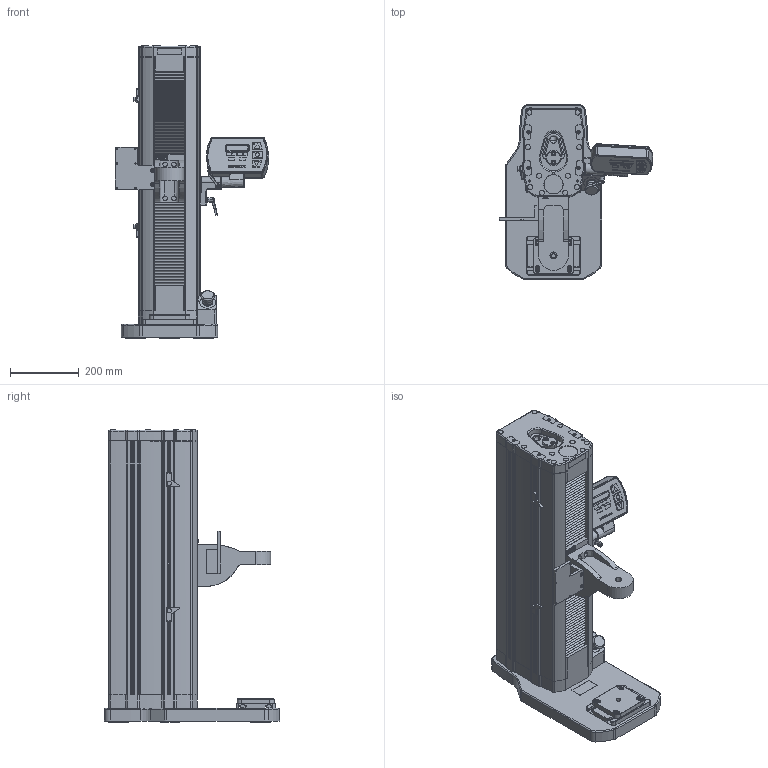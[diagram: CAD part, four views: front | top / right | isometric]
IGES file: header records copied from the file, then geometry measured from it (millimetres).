
Global section: file name: No Iges File Name specified; native system: Autodesk Inventor 2010; preprocessor: AutoDesk Inventor Iges Exporter R2010; author: mlampen; date: 20170913.143303; units: inch
Bounding box: 445 x 508 x 849.27 mm (x, y, z)
Volume: 41233921.2 mm3; surface area: 1688778.8 mm2
Topology: 20 solids, 28 shells, 5715 faces, 14956 edges, 9599 vertices
Faces by surface type: plane 2725, cylinder 924, bspline 877, revolution 867, cone 142, torus 140, sphere 40
Full cylindrical faces by diameter (mm): 2.02 x4, 2.845 x4, 5.172 x2, 6.35 x4
